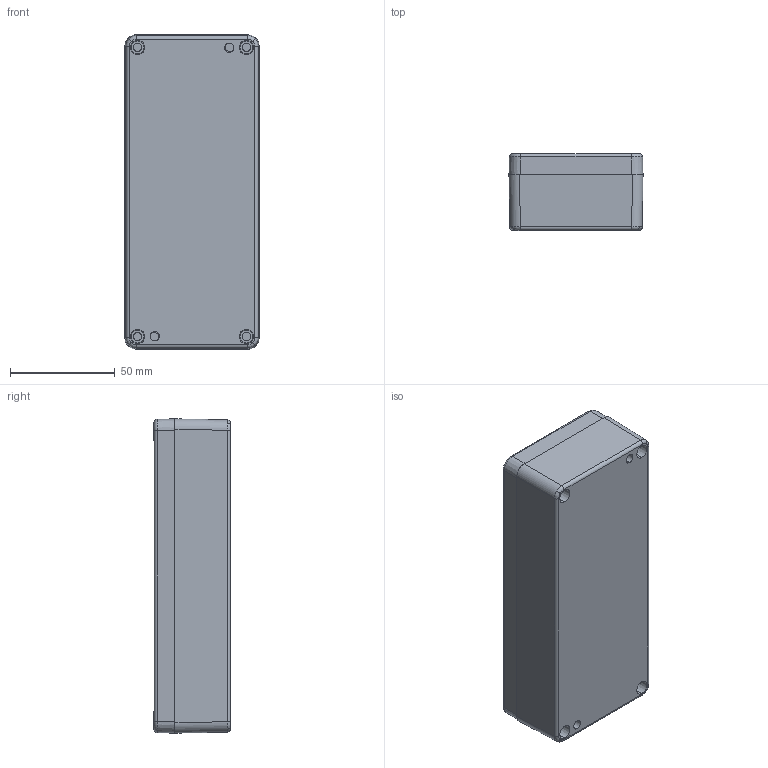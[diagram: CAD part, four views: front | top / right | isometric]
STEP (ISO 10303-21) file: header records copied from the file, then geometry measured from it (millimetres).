
FILE_DESCRIPTION (( 'STEP AP203' ), '1' );
FILE_NAME ('AN-15P-01.step', '2016-12-27T20:36:50', ( '' ), ( '' ), 'SwSTEP 2.0', 'SolidWorks 2016', '' );
FILE_SCHEMA (( 'CONFIG_CONTROL_DESIGN' ));
Length unit declared in the file: inch
Products named in the file (6): AN-15B_AN-15BP-01; cross recessed countersunk head screw_jis_JIS 1111 Cross recessed countersunk head screw - M4 x 20 - Z --20CSST; AN-15C_AN-15C-01; SCREWS-034-4; AN-15P-01; GASKET-115-01
Assembly tree (8 placements, depth 3):
  AN-15P-01
    AN-15B_AN-15BP-01
    AN-15C_AN-15C-01
    SCREWS-034-4
      cross recessed countersunk head screw_jis_JIS 1111 Cross recessed countersunk head screw - M4 x 20 - Z --20CSST  x4
    GASKET-115-01
Bounding box: 64 x 36.76 x 150 mm (x, y, z)
Volume: 129246.7 mm3; surface area: 74253.6 mm2
Topology: 7 solids, 7 shells, 519 faces, 1262 edges, 772 vertices
Faces by surface type: cylinder 164, plane 153, cone 114, torus 80, bspline 8
Entity records: 13442 total; most frequent: CARTESIAN_POINT 2400, DIRECTION 2400, ORIENTED_EDGE 2064, EDGE_CURVE 1032, AXIS2_PLACEMENT_3D 983, VERTEX_POINT 637, CIRCLE 556, EDGE_LOOP 465
